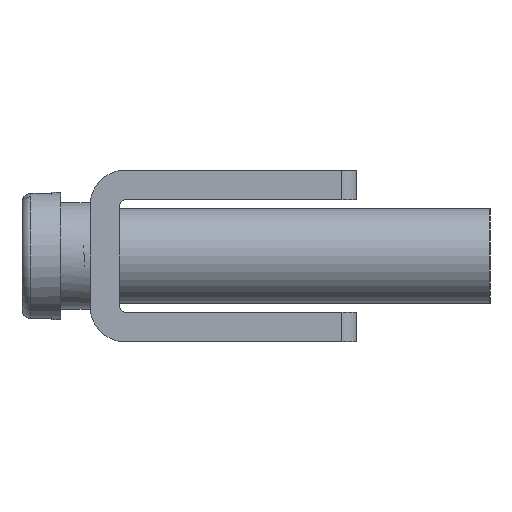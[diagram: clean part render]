
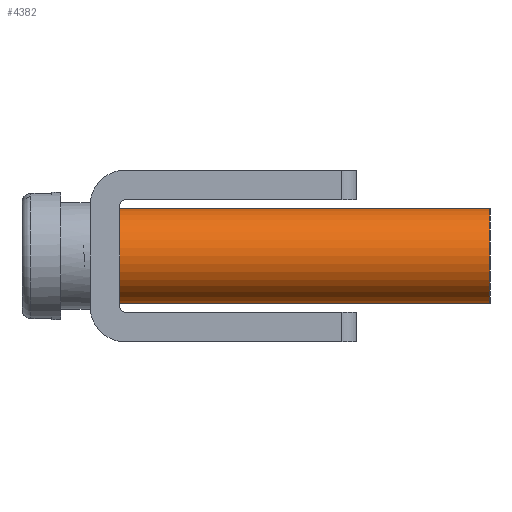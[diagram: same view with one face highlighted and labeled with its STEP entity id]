
A CAD part, left-side view. The second image highlights one B-rep face of the part: STEP entity #4382.
In plain terms, the highlighted cylindrical face has radius 1.6 mm (diameter 3.2 mm), a full revolution.
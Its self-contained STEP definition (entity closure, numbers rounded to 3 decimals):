
#4382 = ADVANCED_FACE('',(#4383),#4396,.T.);
#4383 = FACE_BOUND('',#4384,.T.);
#4384 = EDGE_LOOP('',(#4385,#4406,#4428,#4444,#4458));
#4385 = ORIENTED_EDGE('',*,*,#4386,.F.);
#4386 = EDGE_CURVE('',#4387,#4387,#4389,.T.);
#4387 = VERTEX_POINT('',#4388);
#4388 = CARTESIAN_POINT('',(-35.3,74.,-5.55));
#4389 = SURFACE_CURVE('',#4390,(#4395),.PCURVE_S1.);
#4390 = CIRCLE('',#4391,1.6);
#4391 = AXIS2_PLACEMENT_3D('',#4392,#4393,#4394);
#4392 = CARTESIAN_POINT('',(-35.3,74.,-3.95));
#4393 = DIRECTION('',(0.,1.,0.));
#4394 = DIRECTION('',(0.,0.,-1.));
#4395 = PCURVE('',#4396,#4401);
#4396 = CYLINDRICAL_SURFACE('',#4397,1.6);
#4397 = AXIS2_PLACEMENT_3D('',#4398,#4399,#4400);
#4398 = CARTESIAN_POINT('',(-35.3,61.5,-3.95));
#4399 = DIRECTION('',(0.,1.,0.));
#4400 = DIRECTION('',(0.,0.,-1.));
#4401 = DEFINITIONAL_REPRESENTATION('',(#4402),#4405);
#4402 = B_SPLINE_CURVE_WITH_KNOTS('',1,(#4403,#4404),.UNSPECIFIED.,.F.,
  .F.,(2,2),(0.,6.283),.PIECEWISE_BEZIER_KNOTS.);
#4403 = CARTESIAN_POINT('',(0.,12.5));
#4404 = CARTESIAN_POINT('',(6.283,12.5));
#4405 = ( GEOMETRIC_REPRESENTATION_CONTEXT(2) 
PARAMETRIC_REPRESENTATION_CONTEXT() REPRESENTATION_CONTEXT('2D SPACE',''
  ) );
#4406 = ORIENTED_EDGE('',*,*,#4407,.F.);
#4407 = EDGE_CURVE('',#4408,#4387,#4410,.T.);
#4408 = VERTEX_POINT('',#4409);
#4409 = CARTESIAN_POINT('',(-35.3,61.5,-5.55));
#4410 = SEAM_CURVE('',#4411,(#4414,#4421),.PCURVE_S1.);
#4411 = B_SPLINE_CURVE_WITH_KNOTS('',1,(#4412,#4413),.UNSPECIFIED.,.F.,
  .F.,(2,2),(0.,12.5),.PIECEWISE_BEZIER_KNOTS.);
#4412 = CARTESIAN_POINT('',(-35.3,61.5,-5.55));
#4413 = CARTESIAN_POINT('',(-35.3,74.,-5.55));
#4414 = PCURVE('',#4396,#4415);
#4415 = DEFINITIONAL_REPRESENTATION('',(#4416),#4420);
#4416 = LINE('',#4417,#4418);
#4417 = CARTESIAN_POINT('',(0.,0.));
#4418 = VECTOR('',#4419,1.);
#4419 = DIRECTION('',(0.,1.));
#4420 = ( GEOMETRIC_REPRESENTATION_CONTEXT(2) 
PARAMETRIC_REPRESENTATION_CONTEXT() REPRESENTATION_CONTEXT('2D SPACE',''
  ) );
#4421 = PCURVE('',#4396,#4422);
#4422 = DEFINITIONAL_REPRESENTATION('',(#4423),#4427);
#4423 = LINE('',#4424,#4425);
#4424 = CARTESIAN_POINT('',(6.283,0.));
#4425 = VECTOR('',#4426,1.);
#4426 = DIRECTION('',(0.,1.));
#4427 = ( GEOMETRIC_REPRESENTATION_CONTEXT(2) 
PARAMETRIC_REPRESENTATION_CONTEXT() REPRESENTATION_CONTEXT('2D SPACE',''
  ) );
#4428 = ORIENTED_EDGE('',*,*,#4429,.F.);
#4429 = EDGE_CURVE('',#4430,#4408,#4432,.T.);
#4430 = VERTEX_POINT('',#4431);
#4431 = CARTESIAN_POINT('',(-35.3,61.5,-2.35));
#4432 = SURFACE_CURVE('',#4433,(#4438),.PCURVE_S1.);
#4433 = CIRCLE('',#4434,1.6);
#4434 = AXIS2_PLACEMENT_3D('',#4435,#4436,#4437);
#4435 = CARTESIAN_POINT('',(-35.3,61.5,-3.95));
#4436 = DIRECTION('',(0.,-1.,0.));
#4437 = DIRECTION('',(0.,0.,1.));
#4438 = PCURVE('',#4396,#4439);
#4439 = DEFINITIONAL_REPRESENTATION('',(#4440),#4443);
#4440 = B_SPLINE_CURVE_WITH_KNOTS('',1,(#4441,#4442),.UNSPECIFIED.,.F.,
  .F.,(2,2),(0.,6.283),.PIECEWISE_BEZIER_KNOTS.);
#4441 = CARTESIAN_POINT('',(3.142,0.));
#4442 = CARTESIAN_POINT('',(-3.142,0.));
#4443 = ( GEOMETRIC_REPRESENTATION_CONTEXT(2) 
PARAMETRIC_REPRESENTATION_CONTEXT() REPRESENTATION_CONTEXT('2D SPACE',''
  ) );
#4444 = ORIENTED_EDGE('',*,*,#4445,.F.);
#4445 = EDGE_CURVE('',#4408,#4430,#4446,.T.);
#4446 = SURFACE_CURVE('',#4447,(#4452),.PCURVE_S1.);
#4447 = CIRCLE('',#4448,1.6);
#4448 = AXIS2_PLACEMENT_3D('',#4449,#4450,#4451);
#4449 = CARTESIAN_POINT('',(-35.3,61.5,-3.95));
#4450 = DIRECTION('',(0.,-1.,0.));
#4451 = DIRECTION('',(0.,0.,1.));
#4452 = PCURVE('',#4396,#4453);
#4453 = DEFINITIONAL_REPRESENTATION('',(#4454),#4457);
#4454 = B_SPLINE_CURVE_WITH_KNOTS('',1,(#4455,#4456),.UNSPECIFIED.,.F.,
  .F.,(2,2),(0.,6.283),.PIECEWISE_BEZIER_KNOTS.);
#4455 = CARTESIAN_POINT('',(9.425,0.));
#4456 = CARTESIAN_POINT('',(3.142,0.));
#4457 = ( GEOMETRIC_REPRESENTATION_CONTEXT(2) 
PARAMETRIC_REPRESENTATION_CONTEXT() REPRESENTATION_CONTEXT('2D SPACE',''
  ) );
#4458 = ORIENTED_EDGE('',*,*,#4407,.T.);
